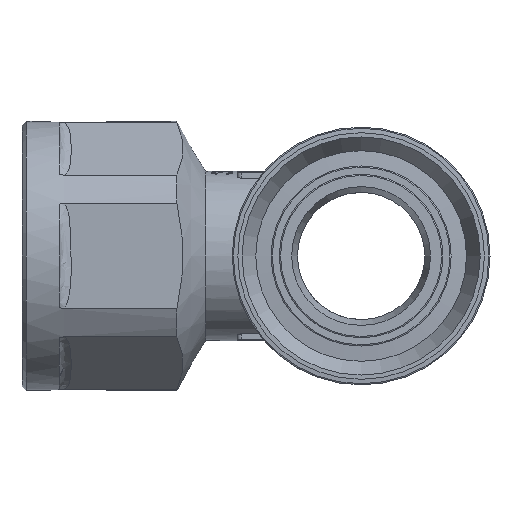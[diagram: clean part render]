
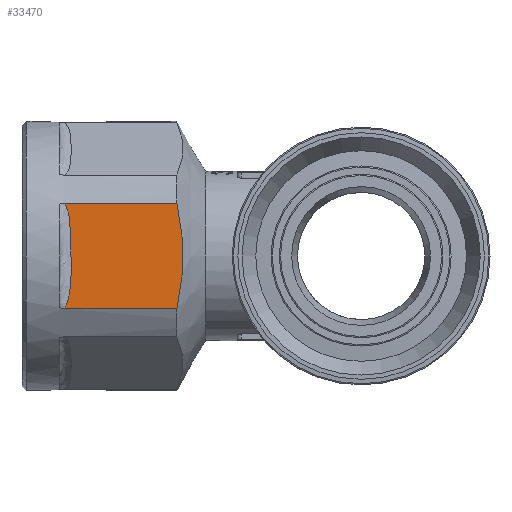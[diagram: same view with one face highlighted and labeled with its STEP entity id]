
A CAD part, left-side view. The second image highlights one B-rep face of the part: STEP entity #33470.
In plain terms, the highlighted planar face has unit normal (-1, 0, 0).
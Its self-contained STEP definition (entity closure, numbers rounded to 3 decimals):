
#19=(
BOUNDED_CURVE()
B_SPLINE_CURVE(2,(#52713,#52714,#52715),.UNSPECIFIED.,.F.,.F.)
B_SPLINE_CURVE_WITH_KNOTS((3,3),(0.,1.285),.UNSPECIFIED.)
CURVE()
GEOMETRIC_REPRESENTATION_ITEM()
RATIONAL_B_SPLINE_CURVE((1.,1.087,1.))
REPRESENTATION_ITEM('')
);
#262=PLANE('',#35380);
#3357=FACE_OUTER_BOUND('',#5294,.T.);
#5294=EDGE_LOOP('',(#24815,#24816,#24817,#24818));
#7288=B_SPLINE_CURVE_WITH_KNOTS('',3,(#52698,#52699,#52700,#52701,#52702,
#52703,#52704,#52705,#52706,#52707,#52708),.UNSPECIFIED.,.F.,.F.,(4,1,1,
1,1,1,1,1,4),(-3.526,-3.488,-3.386,-3.181,
-2.975,-2.565,-2.36,-2.257,
-2.22),.UNSPECIFIED.);
#9565=LINE('',#52711,#11930);
#9566=LINE('',#52716,#11931);
#11930=VECTOR('',#38617,10.);
#11931=VECTOR('',#38618,10.);
#14451=VERTEX_POINT('',#52638);
#14453=VERTEX_POINT('',#52669);
#14454=VERTEX_POINT('',#52710);
#14455=VERTEX_POINT('',#52712);
#18443=EDGE_CURVE('',#14453,#14451,#7288,.T.);
#18444=EDGE_CURVE('',#14454,#14453,#9565,.T.);
#18445=EDGE_CURVE('',#14455,#14454,#19,.T.);
#18446=EDGE_CURVE('',#14451,#14455,#9566,.T.);
#24815=ORIENTED_EDGE('',*,*,#18443,.F.);
#24816=ORIENTED_EDGE('',*,*,#18444,.F.);
#24817=ORIENTED_EDGE('',*,*,#18445,.F.);
#24818=ORIENTED_EDGE('',*,*,#18446,.F.);
#33470=ADVANCED_FACE('',(#3357),#262,.F.);
#35380=AXIS2_PLACEMENT_3D('',#52709,#38615,#38616);
#38615=DIRECTION('center_axis',(1.,0.,0.));
#38616=DIRECTION('ref_axis',(0.,0.,1.));
#38617=DIRECTION('',(0.,1.,0.));
#38618=DIRECTION('',(0.,-1.,0.));
#52638=CARTESIAN_POINT('',(-15.,35.986,6.379));
#52669=CARTESIAN_POINT('',(-15.,35.986,-6.379));
#52698=CARTESIAN_POINT('Ctrl Pts',(-15.,35.987,-6.378));
#52699=CARTESIAN_POINT('Ctrl Pts',(-15.,35.904,-6.285));
#52700=CARTESIAN_POINT('Ctrl Pts',(-15.,35.643,-5.892));
#52701=CARTESIAN_POINT('Ctrl Pts',(-15.,35.279,-4.792));
#52702=CARTESIAN_POINT('Ctrl Pts',(-15.,35.099,-3.077));
#52703=CARTESIAN_POINT('Ctrl Pts',(-15.,35.056,-0.343));
#52704=CARTESIAN_POINT('Ctrl Pts',(-15.,35.046,2.392));
#52705=CARTESIAN_POINT('Ctrl Pts',(-15.,35.276,4.794));
#52706=CARTESIAN_POINT('Ctrl Pts',(-15.,35.645,5.894));
#52707=CARTESIAN_POINT('Ctrl Pts',(-15.,35.904,6.286));
#52708=CARTESIAN_POINT('Ctrl Pts',(-15.,35.987,6.378));
#52709=CARTESIAN_POINT('Origin',(-15.,36.55,-8.66));
#52710=CARTESIAN_POINT('',(-15.,22.3,-6.379));
#52711=CARTESIAN_POINT('',(-15.,31.675,-6.379));
#52712=CARTESIAN_POINT('',(-15.,22.3,6.379));
#52713=CARTESIAN_POINT('Ctrl Pts',(-15.,22.3,6.379));
#52714=CARTESIAN_POINT('Ctrl Pts',(-15.,20.859,0.));
#52715=CARTESIAN_POINT('Ctrl Pts',(-15.,22.3,-6.379));
#52716=CARTESIAN_POINT('',(-15.,31.675,6.379));
